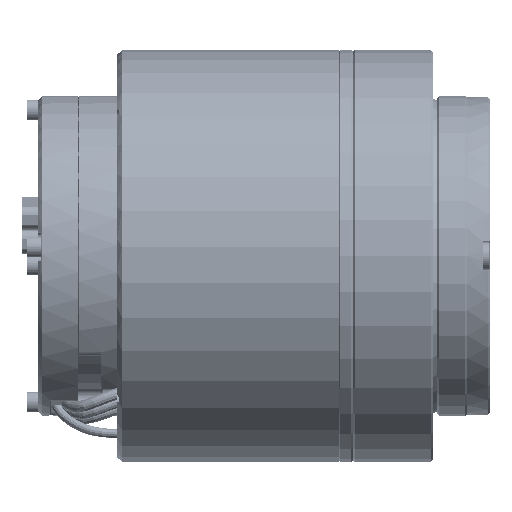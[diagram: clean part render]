
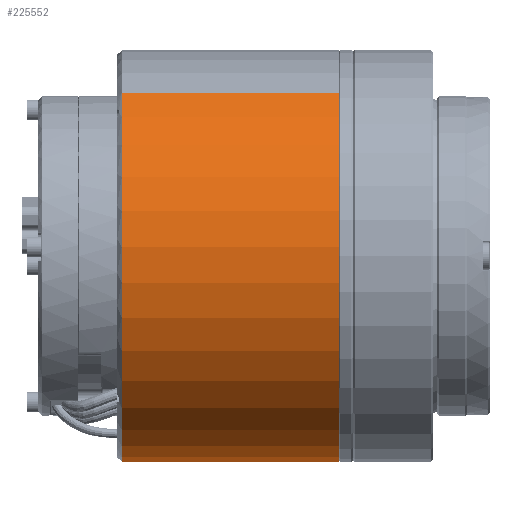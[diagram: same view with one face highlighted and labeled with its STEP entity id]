
A CAD part, front view. The second image highlights one B-rep face of the part: STEP entity #225552.
In plain terms, the highlighted cylindrical face has radius 45 mm (diameter 90 mm), a partial arc.
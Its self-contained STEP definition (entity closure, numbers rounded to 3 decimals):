
#4888 = EDGE_LOOP ( 'NONE', ( #293097, #190649, #125404, #19794 ) ) ;
#7422 = EDGE_CURVE ( 'NONE', #56624, #79985, #135614, .T. ) ;
#18350 = CYLINDRICAL_SURFACE ( 'NONE', #210771, 45. ) ;
#19794 = ORIENTED_EDGE ( 'NONE', *, *, #302521, .F. ) ;
#22569 = AXIS2_PLACEMENT_3D ( 'NONE', #36840, #140592, #64805 ) ;
#36840 = CARTESIAN_POINT ( 'NONE',  ( -68., 0., 0. ) ) ;
#41916 = LINE ( 'NONE', #94540, #273149 ) ;
#56624 = VERTEX_POINT ( 'NONE', #143618 ) ;
#61941 = CARTESIAN_POINT ( 'NONE',  ( -68., -27.394, 35.701 ) ) ;
#64805 = DIRECTION ( 'NONE',  ( 0., 0.609, -0.793 ) ) ;
#70941 = DIRECTION ( 'NONE',  ( -1., 0., 0. ) ) ;
#75659 = LINE ( 'NONE', #259605, #236859 ) ;
#79985 = VERTEX_POINT ( 'NONE', #298957 ) ;
#94540 = CARTESIAN_POINT ( 'NONE',  ( -20.5, -27.394, 35.701 ) ) ;
#102566 = VERTEX_POINT ( 'NONE', #283902 ) ;
#114353 = EDGE_CURVE ( 'NONE', #295692, #102566, #164551, .T. ) ;
#125404 = ORIENTED_EDGE ( 'NONE', *, *, #114353, .T. ) ;
#135614 = CIRCLE ( 'NONE', #161945, 45. ) ;
#140592 = DIRECTION ( 'NONE',  ( 1., 0., 0. ) ) ;
#142395 = DIRECTION ( 'NONE',  ( -1., 0., 0. ) ) ;
#143618 = CARTESIAN_POINT ( 'NONE',  ( -20.5, -27.394, 35.701 ) ) ;
#145131 = DIRECTION ( 'NONE',  ( 0., 0.609, -0.793 ) ) ;
#157091 = EDGE_CURVE ( 'NONE', #56624, #295692, #41916, .T. ) ;
#161945 = AXIS2_PLACEMENT_3D ( 'NONE', #215067, #294091, #195222 ) ;
#164551 = CIRCLE ( 'NONE', #22569, 45. ) ;
#190649 = ORIENTED_EDGE ( 'NONE', *, *, #157091, .T. ) ;
#195222 = DIRECTION ( 'NONE',  ( 0., -0.609, 0.793 ) ) ;
#210771 = AXIS2_PLACEMENT_3D ( 'NONE', #295047, #70941, #145131 ) ;
#215067 = CARTESIAN_POINT ( 'NONE',  ( -20.5, 0., 0. ) ) ;
#225552 = ADVANCED_FACE ( 'NONE', ( #264202 ), #18350, .T. ) ;
#236859 = VECTOR ( 'NONE', #253551, 1000. ) ;
#253551 = DIRECTION ( 'NONE',  ( -1., 0., 0. ) ) ;
#259605 = CARTESIAN_POINT ( 'NONE',  ( -20.5, 27.394, -35.701 ) ) ;
#264202 = FACE_OUTER_BOUND ( 'NONE', #4888, .T. ) ;
#273149 = VECTOR ( 'NONE', #142395, 1000. ) ;
#283902 = CARTESIAN_POINT ( 'NONE',  ( -68., 27.394, -35.701 ) ) ;
#293097 = ORIENTED_EDGE ( 'NONE', *, *, #7422, .F. ) ;
#294091 = DIRECTION ( 'NONE',  ( 1., 0., 0. ) ) ;
#295047 = CARTESIAN_POINT ( 'NONE',  ( -20.5, 0., 0. ) ) ;
#295692 = VERTEX_POINT ( 'NONE', #61941 ) ;
#298957 = CARTESIAN_POINT ( 'NONE',  ( -20.5, 27.394, -35.701 ) ) ;
#302521 = EDGE_CURVE ( 'NONE', #79985, #102566, #75659, .T. ) ;
